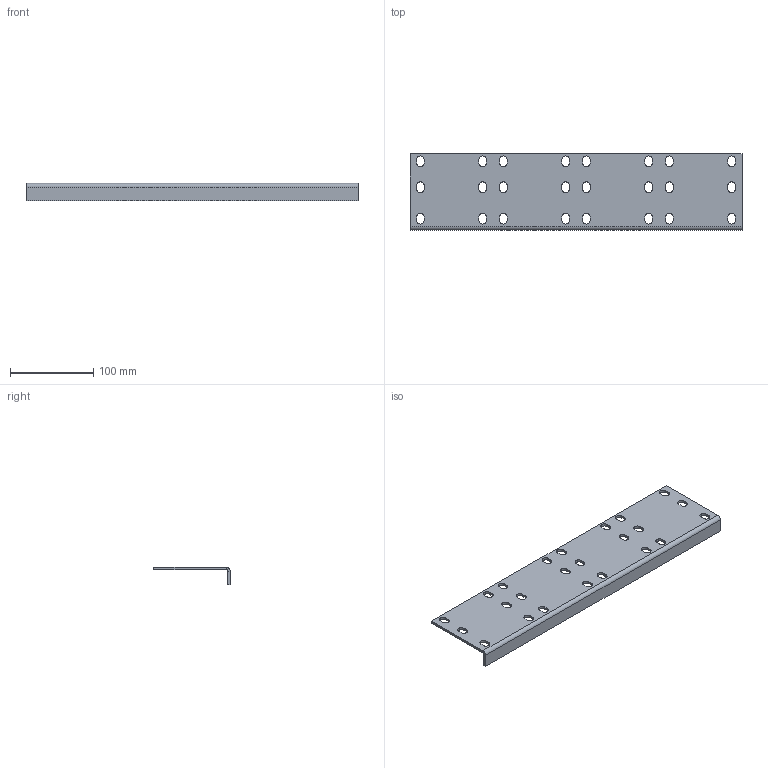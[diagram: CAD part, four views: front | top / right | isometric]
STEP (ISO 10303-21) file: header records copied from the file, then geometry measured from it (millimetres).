
FILE_DESCRIPTION (( 'STEP AP203' ), '1' );
FILE_NAME ('UGH410.STEP', '2015-03-30T12:06:15', ( '' ), ( '' ), 'SwSTEP 2.0', 'SolidWorks 2014', '' );
FILE_SCHEMA (( 'CONFIG_CONTROL_DESIGN' ));
Length unit declared in the file: millimetre
Products named in the file (1): UGH410
Bounding box: 400 x 92 x 21 mm (x, y, z)
Volume: 123282.4 mm3; surface area: 87852.3 mm2
Topology: 1 solids, 1 shells, 110 faces, 316 edges, 208 vertices
Faces by surface type: plane 60, cylinder 50
Entity records: 3789 total; most frequent: DIRECTION 638, CARTESIAN_POINT 635, ORIENTED_EDGE 632, EDGE_CURVE 316, LINE 216, VECTOR 216, AXIS2_PLACEMENT_3D 211, VERTEX_POINT 208
